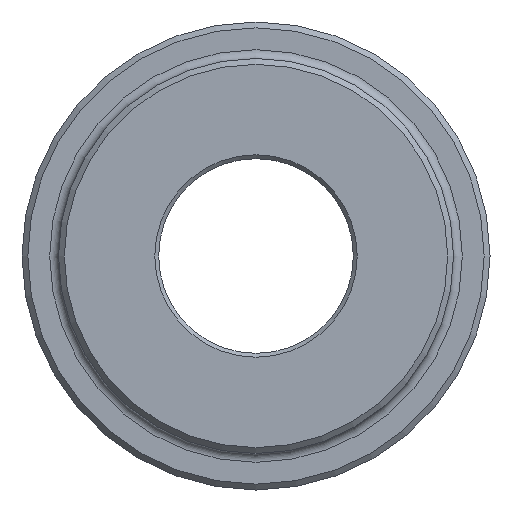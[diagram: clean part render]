
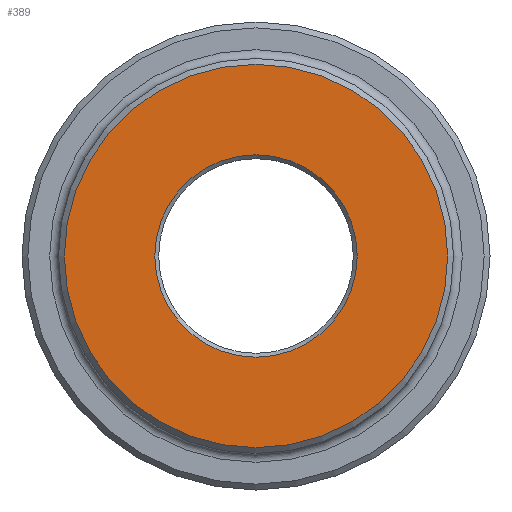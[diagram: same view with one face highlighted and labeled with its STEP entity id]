
A CAD part, left-side view. The second image highlights one B-rep face of the part: STEP entity #389.
In plain terms, the highlighted planar face has unit normal (-1, 0, 0).
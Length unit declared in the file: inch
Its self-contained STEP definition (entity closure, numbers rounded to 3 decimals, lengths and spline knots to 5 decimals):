
#111 = FACE_BOUND ( 'NONE', #1384, .T. ) ;
#148 = DIRECTION ( 'NONE',  ( 0., 0., -1. ) ) ;
#159 = CARTESIAN_POINT ( 'NONE',  ( 0., 0., 0. ) ) ;
#161 = DIRECTION ( 'NONE',  ( 1., 0., 0. ) ) ;
#389 = ADVANCED_FACE ( 'NONE', ( #111, #2044 ), #2311, .F. ) ;
#414 = DIRECTION ( 'NONE',  ( 0., 0., -1. ) ) ;
#453 = AXIS2_PLACEMENT_3D ( 'NONE', #159, #1258, #1404 ) ;
#464 = EDGE_CURVE ( 'NONE', #1759, #1759, #1577, .T. ) ;
#540 = ORIENTED_EDGE ( 'NONE', *, *, #464, .T. ) ;
#590 = CARTESIAN_POINT ( 'NONE',  ( 0., 0., -1.97 ) ) ;
#667 = CARTESIAN_POINT ( 'NONE',  ( 0., 0., -1.04025 ) ) ;
#802 = EDGE_CURVE ( 'NONE', #975, #975, #1027, .T. ) ;
#975 = VERTEX_POINT ( 'NONE', #590 ) ;
#1027 = CIRCLE ( 'NONE', #1706, 1.97 ) ;
#1151 = AXIS2_PLACEMENT_3D ( 'NONE', #1298, #161, #414 ) ;
#1160 = ORIENTED_EDGE ( 'NONE', *, *, #802, .T. ) ;
#1258 = DIRECTION ( 'NONE',  ( 1., 0., 0. ) ) ;
#1298 = CARTESIAN_POINT ( 'NONE',  ( 0., 0., 0. ) ) ;
#1384 = EDGE_LOOP ( 'NONE', ( #540 ) ) ;
#1404 = DIRECTION ( 'NONE',  ( 0., 0., -1. ) ) ;
#1460 = EDGE_LOOP ( 'NONE', ( #1160 ) ) ;
#1554 = DIRECTION ( 'NONE',  ( -1., 0., 0. ) ) ;
#1577 = CIRCLE ( 'NONE', #1151, 1.04025 ) ;
#1706 = AXIS2_PLACEMENT_3D ( 'NONE', #1874, #1554, #148 ) ;
#1759 = VERTEX_POINT ( 'NONE', #667 ) ;
#1874 = CARTESIAN_POINT ( 'NONE',  ( 0., 0., 0. ) ) ;
#2044 = FACE_OUTER_BOUND ( 'NONE', #1460, .T. ) ;
#2311 = PLANE ( 'NONE',  #453 ) ;
